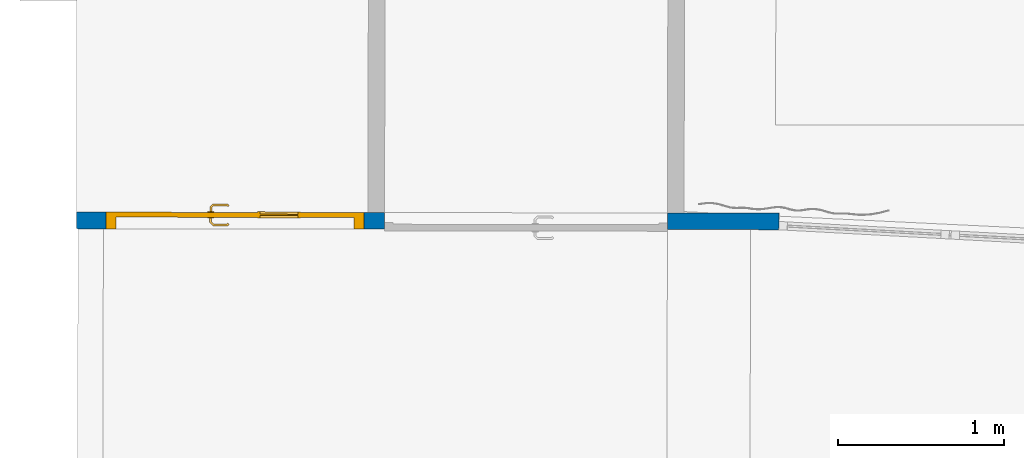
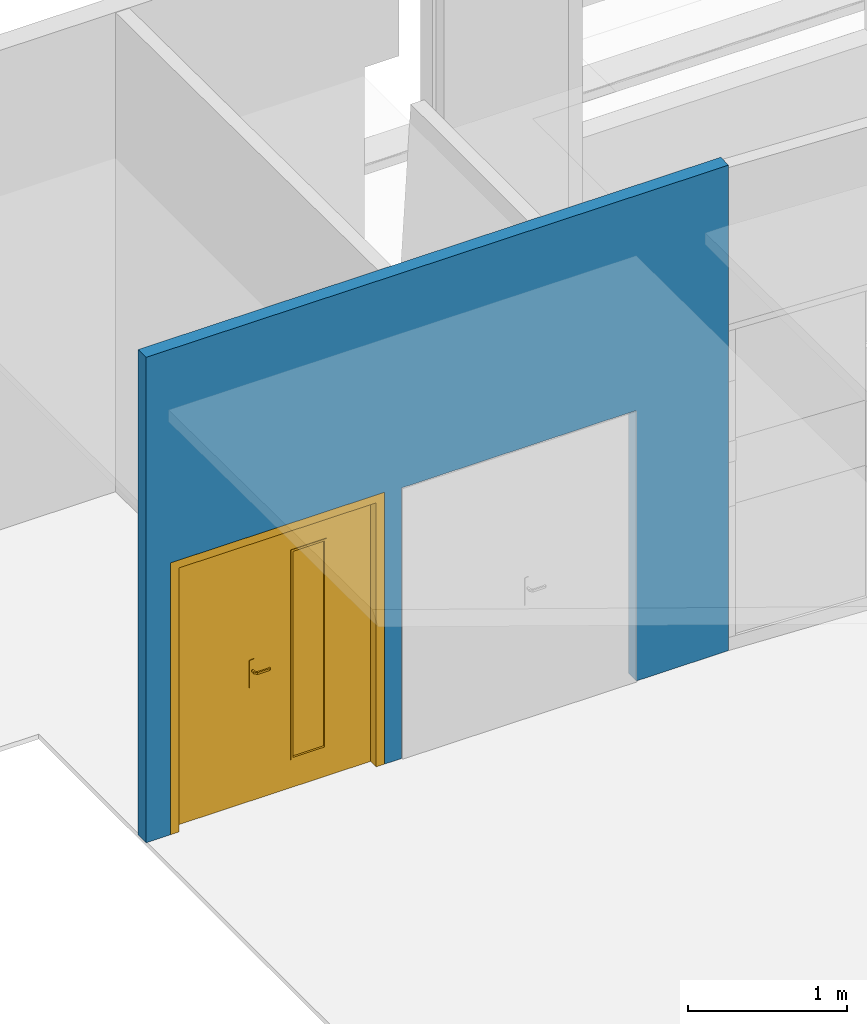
# One storey, part 19 of 43: 1 door, 1 wall, 2 openings.
"""IFC2X3 building model written with IfcOpenShell, lengths in metres."""

from ifc_helpers import new_model, entity, si_unit, converted_unit, derived_unit, direction, frame, frame_2d, origin, place, context, subcontext, project, spatial, rectangle, extrude, faceted_brep, source, transform, mapped, material, material_list, layer, layer_set, type_object, type_shapes, element, fill, save


model = new_model("IFC2X3")

# Units and contexts
model_context = context("Model", 3, precision=1e-05, world=origin(), true_north=direction((6.123233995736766e-17, 1.0)))
body_context = subcontext(model_context, "Body", "Model", "MODEL_VIEW")
ifc_project = project(units=[si_unit("LENGTHUNIT", "METRE"), si_unit("AREAUNIT", "SQUARE_METRE"), converted_unit("PLANEANGLEUNIT", "DEGREE", entity("IfcPlaneAngleMeasure", 0.017453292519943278), si_unit("PLANEANGLEUNIT", "RADIAN"), dimensions=[0, 0, 0, 0, 0, 0, 0]), derived_unit("THERMALTRANSMITTANCEUNIT", [(si_unit("MASSUNIT", "GRAM", prefix="KILO"), 1), (si_unit("THERMODYNAMICTEMPERATUREUNIT", "KELVIN"), -1), (si_unit("TIMEUNIT", "SECOND"), -3)])], contexts=[model_context])

# Site, building, storey
site_placement = place(None, frame((1253.6752467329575, 2072.143113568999, 91.49999999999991), z_axis=(0.0, 0.0, 1.0), x_axis=(0.7237211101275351, 0.6900925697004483, 0.0)))
site = spatial("IfcSite", under=ifc_project, at=site_placement, Name="Surface", CompositionType="ELEMENT")
building_placement = place(site_placement, origin())
building = spatial("IfcBuilding", under=site, at=building_placement, CompositionType="ELEMENT")
storey_placement = place(building_placement, frame((0.0, 0.0, -4.629999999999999)))
storey = spatial("IfcBuildingStorey", under=building, at=storey_placement, Name="rez de rue -1.10m", CompositionType="ELEMENT", Elevation=-4.629999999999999)

# Wall, openings, door
ifc_material_1 = material(Name="OMD_Cloison 100mm CF1h")
ifc_layer = layer(ifc_material_1, 0.1)
ifc_layer_set = layer_set([ifc_layer], Name="Mur de base:Cloison 100mm CF1h")
wall_type = type_object("IfcWallType", Name="Mur de base:Cloison 100mm CF1h", PredefinedType="STANDARD", material=ifc_layer_set)
wall_placement = place(storey_placement, frame((173.47204840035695, 15.197747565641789, 0.0), z_axis=(0.0, 0.0, 1.0), x_axis=(0.7227070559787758, -0.6911544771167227, 0.0)))
wall = element("IfcWall", 1, at=wall_placement, inside=storey, type_object=wall_type, Name="Mur de base:Cloison 100mm CF1h", ObjectType="Mur de base:Cloison 100mm CF1h", context=body_context, shape_type="Brep", body=[
    faceted_brep([(4.221571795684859, -0.05000000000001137, 3.7231694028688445), (2.3611774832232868e-05, -0.05000000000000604, 3.7231694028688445), (2.361177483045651e-05, -0.05000000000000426, 0.0), (0.0025107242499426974, -0.05000000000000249, 0.0), (0.1625107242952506, -0.05000000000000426, 0.0), (0.1779607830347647, -0.049999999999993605, 0.0), (0.1779607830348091, -0.04999999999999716, 2.085), (1.7279607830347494, -0.04999999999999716, 2.085), (1.7279607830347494, -0.04999999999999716, 0.0), (1.8529607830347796, -0.05000000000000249, 0.0), (1.8529607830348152, -0.05000000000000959, 2.0749999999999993), (3.55296078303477, -0.049999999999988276, 2.0749999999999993), (3.552960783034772, -0.04999999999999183, 0.0), (4.221571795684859, -0.05000000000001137, 0.0), (0.0, 0.05000000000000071, 3.7231694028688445), (4.224190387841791, 0.04999999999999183, 3.7231694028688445), (4.224190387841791, 0.04999999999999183, 0.0), (3.65296078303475, 0.04999999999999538, 0.0), (3.552960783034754, 0.049999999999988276, 0.0), (3.552960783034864, 0.05000000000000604, 2.0749999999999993), (1.8529607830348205, 0.05000000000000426, 2.0749999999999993), (1.852960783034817, 0.050000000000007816, 0.0), (1.7529607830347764, 0.05000000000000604, 0.0), (1.7279607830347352, 0.049999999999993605, 0.0), (1.7279607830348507, 0.05000000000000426, 2.085), (0.1779607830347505, 0.04999999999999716, 2.085), (0.17796078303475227, 0.04999999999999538, 0.0), (0.0, 0.05000000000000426, 0.0)], [[[0, 1, 2, 3, 4, 5, 6, 7, 8, 9, 10, 11, 12, 13]], [[14, 15, 16, 17, 18, 19, 20, 21, 22, 23, 24, 25, 26, 27]], [[25, 6, 5, 26]], [[6, 25, 24, 7]], [[7, 24, 23, 8]], [[5, 4, 3, 2, 27, 26]], [[1, 0, 15, 14]], [[1, 14, 27, 2]], [[11, 19, 18, 12]], [[19, 11, 10, 20]], [[20, 10, 9, 21]], [[0, 13, 16, 15]], [[8, 23, 22, 21, 9]], [[16, 13, 12, 18, 17]]]),
])
opening_1_placement = place(wall_placement, frame((0.17796078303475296, -0.05000000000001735, 0.0)))
opening_1 = element("IfcOpeningElement", 2, at=opening_1_placement, cuts=wall, Name="OMD_Porte 2V tunnel:140x204 +occulus:1", ObjectType="Opening", context=body_context, shape_type="SweptSolid", body=[
    extrude(rectangle(XDim=2.085, YDim=1.5499999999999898, at=frame_2d((1.0425, 0.7749999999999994), x_axis=(1.0, 0.0))), frame((0.0, 0.0, 0.0), z_axis=(0.0, 1.0, 0.0), x_axis=(0.0, 0.0, 1.0)), (0.0, 0.0, 1.0), 0.09999999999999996),
])
opening_2_placement = place(wall_placement, frame((3.5529607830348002, 0.049999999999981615, 0.0)))
element("IfcOpeningElement", 3, at=opening_2_placement, cuts=wall, Name="Double (T):1.63m x 2.04m:1", ObjectType="Opening", context=body_context, shape_type="SweptSolid", body=[
    extrude(rectangle(XDim=2.0749999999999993, YDim=1.699999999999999, at=frame_2d((1.0374999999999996, 0.8499999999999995), x_axis=(1.0, 0.0))), frame((0.0, 0.0, 0.0), z_axis=(0.0, -1.0, 0.0), x_axis=(0.0, 0.0, 1.0)), (0.0, 0.0, 1.0), 0.09999999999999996),
])
ifc_material_2 = material(Name="<Unnamed>")
ifc_material_3 = material(Name="Porte - Poignée")
ifc_material_4 = material(Name="Verre")
ifc_material_5 = material(Name="OMD_RAL5023")
ifc_material_list = material_list([ifc_material_2, ifc_material_3, ifc_material_4, ifc_material_5])
door_style = type_object("IfcDoorStyle", Name="OMD_Porte 2V tunnel:140x204 +occulus", ConstructionType="NOTDEFINED", OperationType="NOTDEFINED", ParameterTakesPrecedence=False, Sizeable=False, material=ifc_material_list)
shared_shape = source(origin(), body_context, "Body", "Brep", [
    faceted_brep([(1.5049999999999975, 0.030000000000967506, 0.0), (1.5049999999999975, 0.0, 0.0), (0.9749999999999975, 0.0, 0.0), (0.9749999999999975, 0.030000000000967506, 0.0), (1.5049999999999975, 0.030000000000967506, 2.04), (1.5049999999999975, 0.0, 2.04), (0.9749999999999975, 0.0, 2.04), (0.9749999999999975, 0.030000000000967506, 2.04)], [[[0, 1, 2, 3]], [[4, 5, 1, 0]], [[5, 6, 2, 1]], [[6, 7, 3, 2]], [[7, 4, 0, 3]], [[4, 7, 6, 5]]]),
    faceted_brep([(0.9220252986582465, 0.035000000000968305, 1.0077804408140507), (0.9179747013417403, 0.035000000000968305, 1.007780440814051), (0.913999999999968, 0.035000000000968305, 1.00699999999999), (0.913999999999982, 0.035000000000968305, 0.9930000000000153), (0.9179747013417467, 0.035000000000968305, 0.9922195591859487), (0.9220252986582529, 0.035000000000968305, 0.9922195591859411), (0.9260000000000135, 0.035000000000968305, 0.9929999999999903), (0.9260000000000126, 0.035000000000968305, 1.006999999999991), (0.913999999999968, 0.0574852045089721, 1.00699999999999), (0.913999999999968, 0.057485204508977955, 0.9930000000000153), (0.91797470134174, 0.05913157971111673, 1.007780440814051), (0.9220252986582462, 0.06080939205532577, 1.0077804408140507), (0.9058389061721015, 0.07699578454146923, 1.0077804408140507), (0.9041610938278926, 0.07294518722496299, 1.007780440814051), (0.8207931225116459, 0.07294518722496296, 1.0077804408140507), (0.8191153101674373, 0.07699578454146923, 1.0077804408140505), (0.8114510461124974, 0.06933152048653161, 1.0077804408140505), (0.8143152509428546, 0.06646731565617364, 1.0077804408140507), (0.9260000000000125, 0.06245576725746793, 1.006999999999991), (0.9260000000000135, 0.06245576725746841, 0.9929999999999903), (0.9220252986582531, 0.060809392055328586, 0.9922195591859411), (0.9179747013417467, 0.05913157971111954, 0.9922195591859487), (0.9041610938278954, 0.07294518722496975, 0.9922195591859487), (0.9058389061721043, 0.07699578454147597, 0.9922195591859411), (0.8191153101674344, 0.07699578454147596, 0.9922195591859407), (0.8207931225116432, 0.07294518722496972, 0.9922195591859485), (0.8143152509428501, 0.06646731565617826, 0.9922195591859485), (0.8114510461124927, 0.06933152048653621, 0.9922195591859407), (0.9025147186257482, 0.06897048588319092, 1.00699999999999), (0.9025147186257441, 0.06897048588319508, 0.9930000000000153), (0.9074852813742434, 0.08097048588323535, 1.006999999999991), (0.9074852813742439, 0.08097048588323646, 0.9929999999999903), (0.8624771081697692, 0.06897048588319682, 1.0069999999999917), (0.8224394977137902, 0.06897048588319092, 1.0069999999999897), (0.8224394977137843, 0.06897048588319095, 0.9930000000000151), (0.8624771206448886, 0.06897048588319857, 0.9930000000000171), (0.862477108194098, 0.07512492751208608, 1.0078781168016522), (0.8573994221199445, 0.08097048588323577, 1.0069999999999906), (0.8174689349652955, 0.08097048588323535, 1.0069999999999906), (0.8675547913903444, 0.08097048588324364, 0.9929999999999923), (0.817468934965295, 0.08097048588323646, 0.99299999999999), (0.8624771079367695, 0.07512492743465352, 0.9921218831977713), (0.8086405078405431, 0.0721420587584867, 1.0069999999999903), (0.808640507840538, 0.07214205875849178, 0.9929999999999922), (0.8171257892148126, 0.06365677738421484, 0.9930000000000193), (0.8171257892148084, 0.06365677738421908, 1.0069999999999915)], [[[0, 1, 2, 3, 4, 5, 6, 7]], [[8, 9, 3, 2]], [[1, 10, 8, 2]], [[1, 0, 11, 12, 13, 10]], [[14, 15, 16, 17]], [[7, 18, 11, 0]], [[18, 7, 6, 19]], [[6, 5, 20, 19]], [[5, 4, 21, 22, 23, 20]], [[24, 25, 26, 27]], [[4, 3, 9, 21]], [[28, 29, 9, 8]], [[8, 10, 13, 28]], [[18, 30, 12, 11]], [[31, 30, 18, 19]], [[19, 20, 23, 31]], [[21, 9, 29, 22]], [[29, 28, 32, 33, 34, 35]], [[36, 32, 13]], [[37, 38, 15]], [[37, 12, 30]], [[36, 12, 37]], [[14, 32, 36]], [[36, 15, 14]], [[28, 13, 32]], [[32, 14, 33]], [[12, 36, 13]], [[15, 36, 37]], [[30, 31, 39, 40, 38, 37]], [[23, 41, 39]], [[24, 39, 41]], [[39, 31, 23]], [[39, 24, 40]], [[22, 35, 41]], [[41, 23, 22]], [[41, 35, 25]], [[35, 22, 29]], [[34, 25, 35]], [[24, 41, 25]], [[17, 16, 42, 43, 27, 26, 44, 45]], [[45, 44, 34, 33]], [[33, 14, 17, 45]], [[15, 38, 42, 16]], [[43, 42, 38, 40]], [[24, 27, 43, 40]], [[34, 44, 26, 25]]]),
    faceted_brep([(0.9179747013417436, -0.004999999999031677, 1.007780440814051), (0.92202529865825, -0.004999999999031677, 1.0077804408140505), (0.9260000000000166, -0.004999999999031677, 1.0069999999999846), (0.9260000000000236, -0.004999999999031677, 0.9929999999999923), (0.9220252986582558, -0.004999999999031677, 0.992219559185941), (0.9179747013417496, -0.004999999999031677, 0.9922195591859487), (0.9139999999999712, -0.004999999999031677, 0.9930000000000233), (0.9139999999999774, -0.004999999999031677, 1.006999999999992), (0.9220252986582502, -0.031004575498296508, 1.0077804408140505), (0.9260000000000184, -0.03265095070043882, 1.0069999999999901), (0.917974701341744, -0.029326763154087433, 1.007780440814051), (0.9042986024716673, -0.043002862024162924, 1.007780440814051), (0.9059764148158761, -0.047053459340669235, 1.0077804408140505), (0.8191424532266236, -0.047053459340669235, 1.0077804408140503), (0.8208202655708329, -0.043002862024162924, 1.0077804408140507), (0.8143423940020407, -0.036524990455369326, 1.0077804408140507), (0.8114781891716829, -0.03938919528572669, 1.0077804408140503), (0.9139999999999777, -0.02768038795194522, 1.006999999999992), (0.9139999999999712, -0.02768038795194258, 0.9930000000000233), (0.9179747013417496, -0.029326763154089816, 0.9922195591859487), (0.9220252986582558, -0.031004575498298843, 0.992219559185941), (0.9059764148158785, -0.04705345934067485, 0.992219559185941), (0.9042986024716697, -0.04300286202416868, 0.9922195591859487), (0.8208202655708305, -0.04300286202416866, 0.9922195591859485), (0.8191424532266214, -0.04705345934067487, 0.9922195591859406), (0.8114781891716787, -0.03938919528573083, 0.9922195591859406), (0.8143423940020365, -0.03652499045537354, 0.9922195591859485), (0.9260000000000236, -0.03265095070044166, 0.9929999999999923), (0.9076227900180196, -0.051028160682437, 1.0069999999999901), (0.9026522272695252, -0.0390281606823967, 1.006999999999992), (0.9026522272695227, -0.03902816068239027, 0.9930000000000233), (0.907622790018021, -0.051028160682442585, 0.9929999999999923), (0.8625594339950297, -0.045182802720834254, 1.0078781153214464), (0.8676923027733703, -0.051028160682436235, 1.0069999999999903), (0.8174960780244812, -0.05102816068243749, 1.00699999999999), (0.8625594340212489, -0.03902816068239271, 1.0069999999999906), (0.8224666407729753, -0.03902816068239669, 1.0069999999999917), (0.8625594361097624, -0.03902816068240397, 0.9930000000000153), (0.8224666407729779, -0.03902816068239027, 0.9930000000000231), (0.8625594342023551, -0.04518280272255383, 0.9921218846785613), (0.857426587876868, -0.051028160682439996, 0.9929999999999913), (0.8174960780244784, -0.051028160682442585, 0.9929999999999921), (0.8171529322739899, -0.03371445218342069, 0.9930000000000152), (0.8086676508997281, -0.042199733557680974, 0.9929999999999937), (0.8086676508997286, -0.042199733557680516, 1.0069999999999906), (0.8171529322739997, -0.033714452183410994, 1.0069999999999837)], [[[0, 1, 2, 3, 4, 5, 6, 7]], [[2, 1, 8, 9]], [[1, 0, 10, 11, 12, 8]], [[13, 14, 15, 16]], [[0, 7, 17, 10]], [[18, 17, 7, 6]], [[5, 19, 18, 6]], [[5, 4, 20, 21, 22, 19]], [[23, 24, 25, 26]], [[3, 27, 20, 4]], [[9, 27, 3, 2]], [[9, 8, 12, 28]], [[10, 17, 29, 11]], [[30, 29, 17, 18]], [[18, 19, 22, 30]], [[20, 27, 31, 21]], [[28, 31, 27, 9]], [[12, 32, 33]], [[13, 33, 32]], [[33, 28, 12]], [[33, 13, 34]], [[11, 35, 32]], [[32, 12, 11]], [[32, 35, 14]], [[35, 11, 29]], [[36, 14, 35]], [[13, 32, 14]], [[29, 30, 37, 38, 36, 35]], [[39, 37, 22]], [[40, 41, 24]], [[40, 21, 31]], [[39, 21, 40]], [[23, 37, 39]], [[39, 24, 23]], [[30, 22, 37]], [[37, 23, 38]], [[21, 39, 22]], [[24, 39, 40]], [[31, 28, 33, 34, 41, 40]], [[42, 26, 25, 43, 44, 16, 15, 45]], [[13, 16, 44, 34]], [[36, 45, 15, 14]], [[42, 45, 36, 38]], [[38, 23, 26, 42]], [[24, 41, 43, 25]], [[44, 43, 41, 34]]]),
    faceted_brep([(0.9199999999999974, 0.03000000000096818, 0.8646410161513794), (0.9303527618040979, 0.03000000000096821, 0.866003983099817), (0.939999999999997, 0.030000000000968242, 0.8700000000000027), (0.939999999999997, 0.030000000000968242, 1.0800000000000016), (0.9303527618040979, 0.03000000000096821, 1.0839960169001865), (0.9199999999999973, 0.03000000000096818, 1.0853589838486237), (0.9096472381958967, 0.030000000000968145, 1.0839960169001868), (0.8999999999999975, 0.030000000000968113, 1.0800000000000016), (0.8999999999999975, 0.030000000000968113, 0.8700000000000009), (0.9096472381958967, 0.030000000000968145, 0.8660039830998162), (0.9199999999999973, 0.03500000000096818, 1.0853589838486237), (0.9303527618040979, 0.035000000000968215, 1.0839960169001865), (0.939999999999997, 0.03500000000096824, 1.0800000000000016), (0.9399999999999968, 0.03500000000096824, 0.8700000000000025), (0.9303527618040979, 0.035000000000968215, 0.866003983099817), (0.9199999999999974, 0.03500000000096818, 0.8646410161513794), (0.9096472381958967, 0.035000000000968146, 0.8660039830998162), (0.8999999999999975, 0.03500000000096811, 0.8700000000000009), (0.8999999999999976, 0.03500000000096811, 1.0800000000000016), (0.9096472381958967, 0.035000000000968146, 1.0839960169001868)], [[[0, 1, 2, 3, 4, 5, 6, 7, 8, 9]], [[10, 11, 12, 13, 14, 15, 16, 17, 18, 19]], [[6, 19, 18, 7]], [[5, 10, 19, 6]], [[4, 11, 10, 5]], [[4, 3, 12, 11]], [[12, 3, 2, 13]], [[1, 14, 13, 2]], [[0, 15, 14, 1]], [[9, 16, 15, 0]], [[9, 8, 17, 16]], [[17, 8, 7, 18]]]),
    faceted_brep([(0.9199999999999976, -0.004999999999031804, 0.8646410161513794), (0.9303527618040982, -0.00499999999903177, 0.8660039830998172), (0.9399999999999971, -0.0049999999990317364, 0.8700000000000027), (0.939999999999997, -0.0049999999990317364, 1.0800000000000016), (0.9303527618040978, -0.00499999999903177, 1.0839960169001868), (0.9199999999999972, -0.004999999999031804, 1.0853589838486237), (0.9096472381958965, -0.004999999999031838, 1.0839960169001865), (0.8999999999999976, -0.004999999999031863, 1.0800000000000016), (0.8999999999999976, -0.004999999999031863, 0.8700000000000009), (0.9096472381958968, -0.004999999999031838, 0.8660039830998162), (0.939999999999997, 0.0, 1.0800000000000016), (0.9399999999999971, 0.0, 0.8700000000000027), (0.9303527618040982, 0.0, 0.8660039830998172), (0.9199999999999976, 0.0, 0.8646410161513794), (0.9096472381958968, 0.0, 0.8660039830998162), (0.8999999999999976, 0.0, 0.8700000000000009), (0.8999999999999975, 0.0, 1.0800000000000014), (0.9096472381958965, 0.0, 1.0839960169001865), (0.9199999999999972, 0.0, 1.0853589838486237), (0.9303527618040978, 0.0, 1.0839960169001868)], [[[0, 1, 2, 3, 4, 5, 6, 7, 8, 9]], [[10, 11, 12, 13, 14, 15, 16, 17, 18, 19]], [[1, 12, 11, 2]], [[0, 13, 12, 1]], [[9, 14, 13, 0]], [[9, 8, 15, 14]], [[15, 8, 7, 16]], [[6, 17, 16, 7]], [[5, 18, 17, 6]], [[4, 19, 18, 5]], [[4, 3, 10, 19]], [[10, 3, 2, 11]]]),
    faceted_brep([(0.6349999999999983, 0.01100000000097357, 1.820000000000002), (0.38499999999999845, 0.011000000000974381, 1.820000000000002), (0.38499999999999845, 0.011000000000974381, 0.22000000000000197), (0.6349999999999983, 0.01100000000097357, 0.22000000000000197), (0.38499999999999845, 0.019000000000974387, 1.820000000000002), (0.38499999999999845, 0.01900000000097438, 0.22000000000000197), (0.6349999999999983, 0.01900000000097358, 0.22000000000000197), (0.6349999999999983, 0.01900000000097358, 1.820000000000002)], [[[0, 1, 2, 3]], [[2, 1, 4, 5]], [[3, 2, 5, 6]], [[0, 3, 6, 7]], [[7, 6, 5, 4]], [[1, 0, 7, 4]]]),
    faceted_brep([(0.6350000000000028, 0.030000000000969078, 1.820000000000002), (0.6350000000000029, 0.01900000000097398, 1.820000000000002), (0.6350000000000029, 0.01900000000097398, 0.22000000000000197), (0.6350000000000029, 0.030000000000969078, 0.22000000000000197), (0.6250000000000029, 0.01900000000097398, 0.23000000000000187), (0.3950000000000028, 0.01900000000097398, 0.23000000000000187), (0.3950000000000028, 0.01900000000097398, 1.8100000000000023), (0.625000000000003, 0.01900000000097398, 1.8100000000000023), (0.3850000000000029, 0.01900000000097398, 1.820000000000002), (0.38500000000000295, 0.01900000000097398, 0.22000000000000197), (0.3850000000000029, 0.030000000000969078, 0.22000000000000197), (0.3850000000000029, 0.030000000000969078, 1.820000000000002), (0.6400000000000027, 0.030000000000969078, 1.825000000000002), (0.38000000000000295, 0.030000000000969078, 1.825000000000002), (0.38000000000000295, 0.030000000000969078, 0.21500000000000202), (0.6400000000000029, 0.030000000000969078, 0.21500000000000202), (0.6400000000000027, 0.03398525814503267, 1.825000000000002), (0.6400000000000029, 0.03398525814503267, 0.21500000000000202), (0.38000000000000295, 0.03398525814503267, 0.21500000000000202), (0.38000000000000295, 0.03398525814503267, 1.825000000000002), (0.6250000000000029, 0.03398525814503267, 1.8100000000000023), (0.3950000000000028, 0.03398525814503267, 1.8100000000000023), (0.39500000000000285, 0.03398525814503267, 0.23000000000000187), (0.625000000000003, 0.03398525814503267, 0.23000000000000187)], [[[0, 1, 2, 3]], [[4, 5, 6, 7], [1, 8, 9, 2]], [[3, 2, 9, 10]], [[3, 10, 11, 0], [12, 13, 14, 15]], [[16, 12, 15, 17]], [[17, 15, 14, 18]], [[17, 18, 19, 16], [20, 21, 22, 23]], [[7, 20, 23, 4]], [[4, 23, 22, 5]], [[10, 9, 8, 11]], [[18, 14, 13, 19]], [[5, 22, 21, 6]], [[11, 8, 1, 0]], [[19, 13, 12, 16]], [[6, 21, 20, 7]]], outer=[[True], [False, True], [True], [False, True], [True], [True], [True, False], [True], [True], [True], [True], [True], [True], [True], [True]]),
    faceted_brep([(0.6400000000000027, 0.0, 1.825000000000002), (0.6400000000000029, -0.003827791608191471, 1.825000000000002), (0.6400000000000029, -0.003827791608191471, 0.21500000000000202), (0.6400000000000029, 0.0, 0.21500000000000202), (0.6250000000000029, -0.003827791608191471, 0.23000000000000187), (0.3950000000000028, -0.003827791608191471, 0.23000000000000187), (0.3950000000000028, -0.003827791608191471, 1.8100000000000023), (0.625000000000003, -0.003827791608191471, 1.8100000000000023), (0.38000000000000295, -0.003827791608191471, 1.825000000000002), (0.38000000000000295, -0.003827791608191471, 0.21500000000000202), (0.38000000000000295, 0.0, 0.21500000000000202), (0.38000000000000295, 0.0, 1.825000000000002), (0.6350000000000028, 0.0, 1.820000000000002), (0.3850000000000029, 0.0, 1.820000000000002), (0.38500000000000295, 0.0, 0.22000000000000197), (0.6350000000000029, 0.0, 0.22000000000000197), (0.3850000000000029, 0.011000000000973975, 0.22000000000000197), (0.3850000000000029, 0.011000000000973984, 1.820000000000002), (0.6350000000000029, 0.011000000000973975, 0.22000000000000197), (0.6350000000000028, 0.011000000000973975, 1.820000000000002), (0.625000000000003, 0.011000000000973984, 0.23000000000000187), (0.3950000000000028, 0.011000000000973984, 0.23000000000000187), (0.3950000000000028, 0.011000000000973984, 1.8100000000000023), (0.625000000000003, 0.011000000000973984, 1.8100000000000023)], [[[0, 1, 2, 3]], [[4, 5, 6, 7], [1, 8, 9, 2]], [[3, 2, 9, 10]], [[3, 10, 11, 0], [12, 13, 14, 15]], [[10, 9, 8, 11]], [[16, 14, 13, 17]], [[18, 15, 14, 16]], [[19, 12, 15, 18]], [[4, 20, 21, 5]], [[5, 21, 22, 6]], [[7, 23, 20, 4]], [[18, 16, 17, 19], [23, 22, 21, 20]], [[11, 8, 1, 0]], [[17, 13, 12, 19]], [[6, 22, 23, 7]]], outer=[[True], [False, True], [True], [True, False], [True], [True], [True], [True], [True], [True], [True], [True, False], [True], [True], [True]]),
    faceted_brep([(0.3850000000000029, 0.0300000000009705, 0.22000000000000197), (0.38500000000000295, 0.0, 0.22000000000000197), (0.6350000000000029, 0.0, 0.22000000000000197), (0.6350000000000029, 0.030000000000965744, 0.22000000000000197), (0.9750000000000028, 0.030000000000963, 0.0), (0.9750000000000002, 0.0, 0.0), (0.04500000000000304, 0.0, 0.0), (0.04500000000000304, 0.0300000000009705, 0.0), (0.9750000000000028, 0.030000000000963, 2.04), (0.9750000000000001, 0.0, 2.04), (0.38500000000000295, 0.0, 1.820000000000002), (0.6350000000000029, 0.0, 1.820000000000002), (0.04500000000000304, 0.0, 2.04), (0.04500000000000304, 0.0300000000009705, 2.04), (0.6350000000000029, 0.030000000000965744, 1.820000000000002), (0.3850000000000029, 0.030000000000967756, 1.820000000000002)], [[[0, 1, 2, 3]], [[4, 5, 6, 7]], [[8, 9, 5, 4]], [[10, 11, 2, 1], [9, 12, 6, 5]], [[12, 13, 7, 6]], [[14, 15, 0, 3], [13, 8, 4, 7]], [[15, 10, 1, 0]], [[11, 14, 3, 2]], [[8, 13, 12, 9]], [[10, 15, 14, 11]]], outer=[[True], [True], [True], [False, True], [True], [False, True], [True], [True], [True], [True]]),
    faceted_brep([(1.5499999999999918, 0.0, 0.0), (1.5049999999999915, 0.0, 0.0), (1.5049999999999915, 0.0300000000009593, 0.0), (1.4899999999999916, 0.030000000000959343, 0.0), (1.489999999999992, 0.10000000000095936, 0.0), (1.549999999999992, 0.10000000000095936, 0.0), (1.5499999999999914, 0.0, 2.0849999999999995), (0.0, 0.0, 2.0849999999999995), (0.0, 0.0, 0.0), (0.04499999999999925, 0.0, 0.0), (0.04499999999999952, 0.0, 2.0399999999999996), (1.5049999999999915, 0.0, 2.0399999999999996), (1.5049999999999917, 0.0300000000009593, 2.0399999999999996), (0.04499999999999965, 0.030000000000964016, 2.039999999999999), (0.04499999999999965, 0.030000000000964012, 0.0), (0.05999999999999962, 0.030000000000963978, 0.0), (0.05999999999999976, 0.03000000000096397, 2.0249999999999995), (1.4899999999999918, 0.030000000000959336, 2.0249999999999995), (1.489999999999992, 0.10000000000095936, 2.025), (0.05999999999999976, 0.10000000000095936, 2.0249999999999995), (0.05999999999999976, 0.10000000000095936, 0.0), (0.0, 0.10000000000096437, 0.0), (0.0, 0.10000000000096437, 2.0849999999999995), (1.549999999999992, 0.10000000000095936, 2.085)], [[[0, 1, 2, 3, 4, 5]], [[1, 0, 6, 7, 8, 9, 10, 11]], [[2, 1, 11, 12]], [[3, 2, 12, 13, 14, 15, 16, 17]], [[4, 3, 17, 18]], [[5, 4, 18, 19, 20, 21, 22, 23]], [[0, 5, 23, 6]], [[7, 22, 21, 8]], [[8, 21, 20, 15, 14, 9]], [[13, 10, 9, 14]], [[19, 16, 15, 20]], [[12, 11, 10, 13]], [[18, 17, 16, 19]], [[6, 23, 22, 7]]]),
])
type_shapes(door_style, [shared_shape])
door_placement = place(opening_1_placement, frame((1.549999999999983, 0.10000000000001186, 0.0), z_axis=(0.0, 0.0, 1.0), x_axis=(-1.0, 0.0, 0.0)))
door = element("IfcDoor", 4, at=door_placement, inside=storey, type_object=door_style, material=ifc_material_list, Name="OMD_Porte 2V tunnel:140x204 +occulus", ObjectType="OMD_Porte 2V tunnel:140x204 +occulus", OverallHeight=2.085, OverallWidth=1.5499999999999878, context=body_context, shape_type="MappedRepresentation", body=[
    mapped(shared_shape, transform((0.0, 0.0, 0.0), scale=1.0)),
])
fill(opening_1, door)

save(model, "model.ifc")
